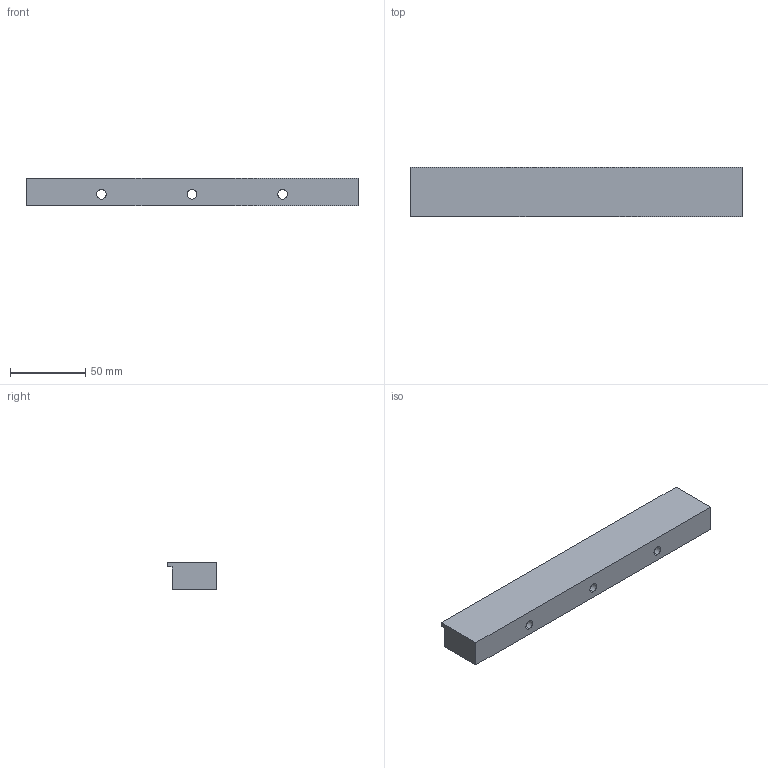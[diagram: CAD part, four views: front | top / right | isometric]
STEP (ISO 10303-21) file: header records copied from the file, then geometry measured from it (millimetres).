
FILE_DESCRIPTION (( 'STEP AP214' ), '1' );
FILE_NAME ('GZ30.05_V1导轨垫块1.STEP', '2021-06-03T07:35:50', ( '微软中国' ), ( 'Microsoft' ), 'SwSTEP 2.0', 'SolidWorks 2017', '' );
FILE_SCHEMA (( 'AUTOMOTIVE_DESIGN' ));
Length unit declared in the file: millimetre
Products named in the file (1): GZ30.05_V1絳寢菜輸1
Bounding box: 220 x 32.5 x 18 mm (x, y, z)
Volume: 113299.4 mm3; surface area: 25880.6 mm2
Topology: 1 solids, 1 shells, 39 faces, 94 edges, 56 vertices
Faces by surface type: cylinder 20, plane 11, cone 8
Entity records: 1222 total; most frequent: DIRECTION 206, CARTESIAN_POINT 182, ORIENTED_EDGE 172, EDGE_CURVE 86, AXIS2_PLACEMENT_3D 80, VERTEX_POINT 56, EDGE_LOOP 52, LINE 46
